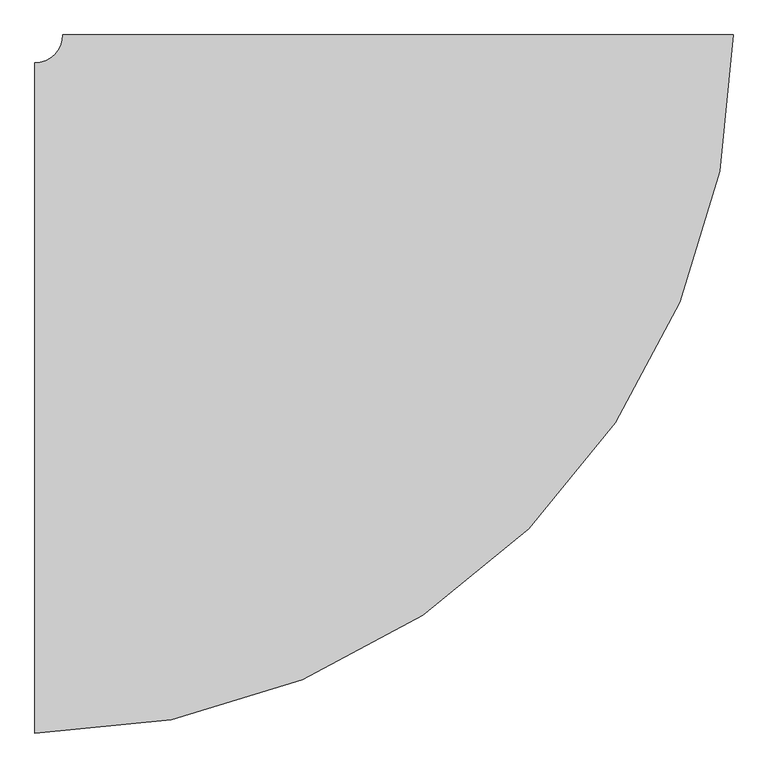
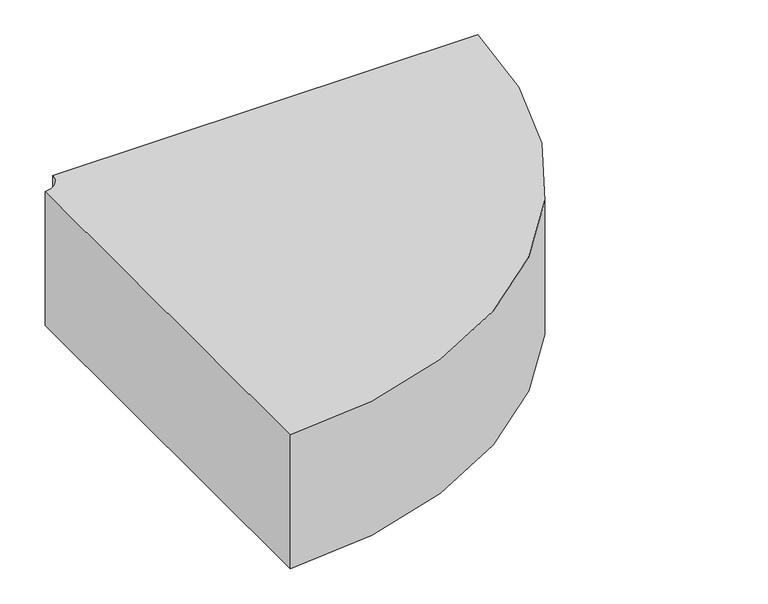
"""IFC4 building model written with IfcOpenShell, lengths in millimetres: duct fitting geometry, ADSK_ОтводВоздуховодов_Прямоугольный1 : Стандарт 2."""

from ifc_helpers import new_model, si_unit, point, frame, frame_2d, origin, place, context, project, spatial, polyline, circle_curve, trimmed, segment, composite_curve, outline, extrude, source, transform, mapped, element, save


def duct_fitting_7af94283(model_context):
    return source(origin(), model_context, "Body", "SweptSolid", [
        extrude(outline(composite_curve([segment(trimmed(circle_curve(frame_2d((-650.0, 650.0)), 1250.0), [point((600.0, 650.0))], [point((-650.0, -600.0))], False, "CARTESIAN"), True, "CONTINUOUS"), segment(polyline([(-650.0, -600.0), (-650.0, 600.0)]), True, "CONTINUOUS"), segment(trimmed(circle_curve(frame_2d((-650.0, 650.0)), 50.0), [point((-650.0, 600.0))], [point((-600.0, 650.0))], True, "CARTESIAN"), True, "CONTINUOUS"), segment(polyline([(-600.0, 650.0), (600.0, 650.0)]), True, "CONTINUOUS")], self_intersect=False)), frame((0.0, 0.0, -200.0), z_axis=(0.0, 0.0, 1.0), x_axis=(1.0, 0.0, 0.0)), (0.0, 0.0, 1.0), 400.0),
    ])


if __name__ == "__main__":
    model = new_model("IFC4")
    model_context = context("Model", 3, world=origin())
    ifc_project = project(units=[si_unit("LENGTHUNIT", "METRE", prefix="MILLI")], contexts=[model_context])
    site = spatial("IfcSite", under=ifc_project)
    building = spatial("IfcBuilding", under=site)
    placement = place(None, origin())
    duct_fitting_shape = duct_fitting_7af94283(model_context)
    element("IfcDuctFitting", 1, ObjectType="ADSK_ОтводВоздуховодов_Прямоугольный1 : Стандарт 2", at=placement, inside=building, context=model_context, shape_type="MappedRepresentation", body=[
        mapped(duct_fitting_shape, transform((0.0, 0.0, 0.0), x_axis=(1.0, 0.0, 0.0), y_axis=(0.0, 1.0, 0.0), z_axis=(0.0, 0.0, 1.0))),
    ])
    save(model, "model.ifc")
